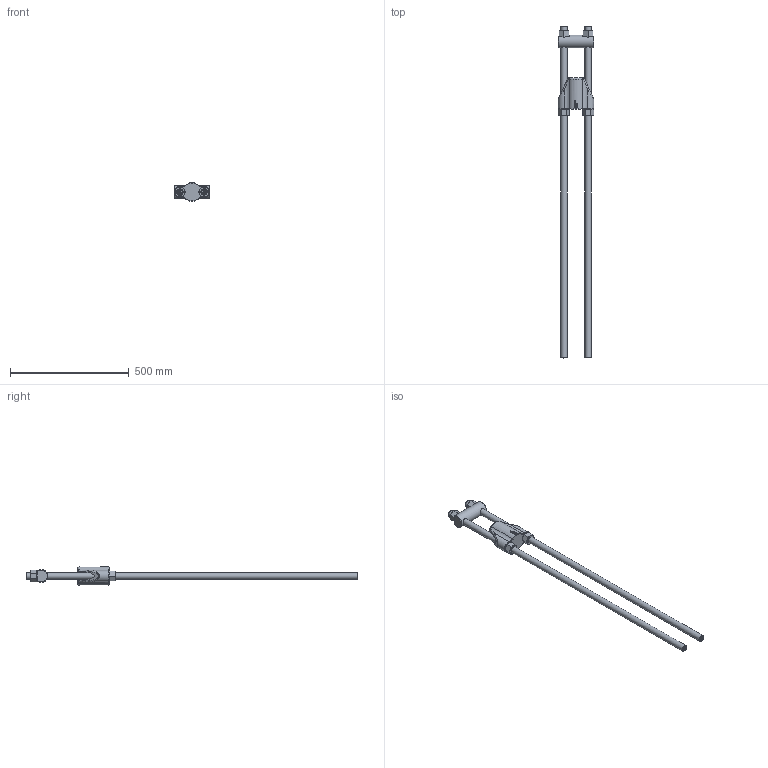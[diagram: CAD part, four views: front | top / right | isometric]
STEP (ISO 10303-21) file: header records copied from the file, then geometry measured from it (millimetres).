
FILE_DESCRIPTION(/* description */ (''),/* implementation_level */ '2;1');
FILE_NAME(/* name */ 'D:\Clienti\Redaelli (inventor)\BRC\STEP\Arrangemet\BRC024 72 111 0.stp',/* time_stamp */ '2021-05-08T08:20:19+02:00',/* author */ ('fabri'),/* organization */ (''),/* preprocessor_version */ 'ST-DEVELOPER v16.13',/* originating_system */ 'Autodesk Inventor 2018',/* authorisation */ '');
FILE_SCHEMA (('AUTOMOTIVE_DESIGN { 1 0 10303 214 3 1 1 }'));
Length unit declared in the file: millimetre
Products named in the file (5): BRC020 72 111 0; BRC020 71 112 0; BRC020 71 114 0_ROD; BRC020 71 113 0; BRC020 71 114 0_NUT
Assembly tree (8 placements, depth 2):
  BRC020 72 111 0
    BRC020 71 112 0
    BRC020 71 114 0_ROD  x2
    BRC020 71 113 0
    BRC020 71 114 0_NUT  x4
Bounding box: 150 x 1400 x 79.89 mm (x, y, z)
Volume: 2778849.5 mm3; surface area: 373108 mm2
Topology: 8 solids, 8 shells, 1530 faces, 4050 edges, 2670 vertices
Faces by surface type: plane 805, bspline 591, cone 62, cylinder 48, torus 20, sphere 4
Full cylindrical faces by diameter (mm): 23.752 x4, 27 x2, 29 x4, 54 x1
Entity records: 29685 total; most frequent: CARTESIAN_POINT 11030, ORIENTED_EDGE 4378, DIRECTION 2765, EDGE_CURVE 2189, VERTEX_POINT 1450, LINE 1269, VECTOR 1269, EDGE_LOOP 925
